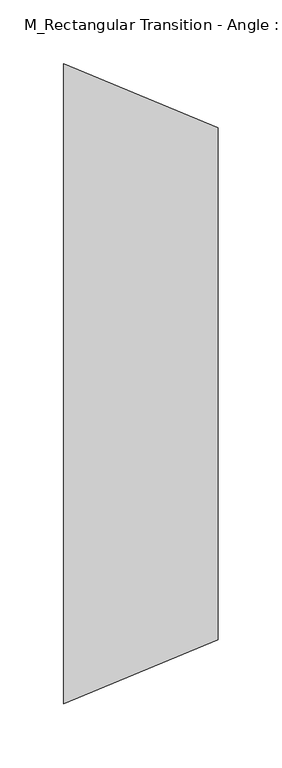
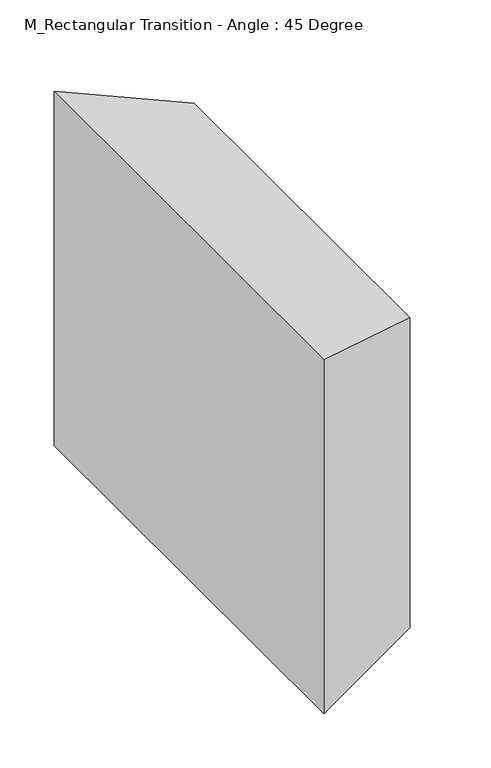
"""IFC4 building model written with IfcOpenShell, lengths in millimetres: duct fitting geometry, M_Rectangular Transition - Angle : 45 Degree."""

from ifc_helpers import new_model, si_unit, origin, place, context, project, spatial, faceted_brep, source, transform, mapped, element, save


def m_rectangular_transition_angle_45_degree_66392caa(model_context):
    return source(origin(), model_context, "Body", "Brep", [
        faceted_brep([(120.7106781, -200.0, 175.0), (120.7106781, -200.0, -175.0), (120.7106781, 200.0, -175.0), (120.7106781, 200.0, 175.0), (0.0, -250.0, 200.0), (0.0, 250.0, 200.0), (0.0, 250.0, -200.0), (0.0, -250.0, -200.0)], [[[0, 1, 2, 3]], [[4, 5, 6, 7]], [[4, 7, 1, 0]], [[7, 6, 2, 1]], [[6, 5, 3, 2]], [[5, 4, 0, 3]]]),
        faceted_brep([(120.7106781, -200.0, 175.0), (120.7106781, -200.0, -175.0), (120.7106781, 200.0, -175.0), (120.7106781, 200.0, 175.0), (0.0, -250.0, 200.0), (0.0, 250.0, 200.0), (0.0, 250.0, -200.0), (0.0, -250.0, -200.0)], [[[0, 1, 2, 3]], [[4, 5, 6, 7]], [[4, 7, 1, 0]], [[7, 6, 2, 1]], [[6, 5, 3, 2]], [[5, 4, 0, 3]]]),
        faceted_brep([(120.7106781, -200.0, 175.0), (120.7106781, -200.0, -175.0), (120.7106781, 200.0, -175.0), (120.7106781, 200.0, 175.0), (0.0, -250.0, 200.0), (0.0, 250.0, 200.0), (0.0, 250.0, -200.0), (0.0, -250.0, -200.0)], [[[0, 1, 2, 3]], [[4, 5, 6, 7]], [[4, 7, 1, 0]], [[7, 6, 2, 1]], [[6, 5, 3, 2]], [[5, 4, 0, 3]]]),
    ])


if __name__ == "__main__":
    model = new_model("IFC4")
    model_context = context("Model", 3, world=origin())
    ifc_project = project(units=[si_unit("LENGTHUNIT", "METRE", prefix="MILLI")], contexts=[model_context])
    site = spatial("IfcSite", under=ifc_project)
    building = spatial("IfcBuilding", under=site)
    placement = place(None, origin())
    m_rectangular_transition_angle_45_degree_shape = m_rectangular_transition_angle_45_degree_66392caa(model_context)
    element("IfcDuctFitting", 1, ObjectType="M_Rectangular Transition - Angle : 45 Degree", at=placement, inside=building, context=model_context, shape_type="MappedRepresentation", body=[
        mapped(m_rectangular_transition_angle_45_degree_shape, transform((0.0, 0.0, 0.0), x_axis=(1.0, 0.0, 0.0), y_axis=(0.0, 1.0, 0.0), z_axis=(0.0, 0.0, 1.0))),
    ])
    save(model, "model.ifc")
